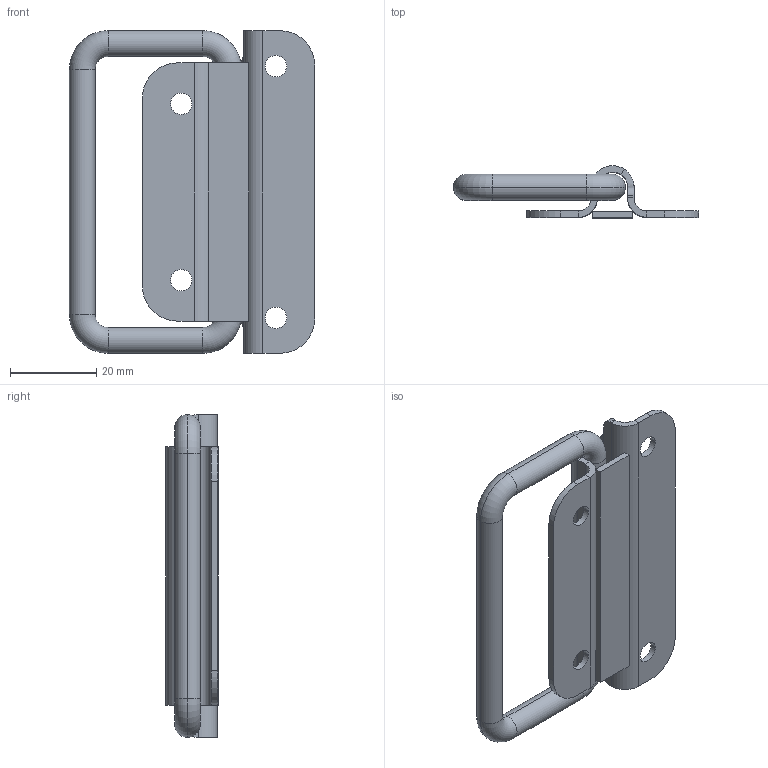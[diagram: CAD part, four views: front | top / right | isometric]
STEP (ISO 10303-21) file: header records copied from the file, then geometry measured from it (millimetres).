
FILE_DESCRIPTION (( 'STEP AP203' ), '1' );
FILE_NAME ('SK4-020.STEP', '2018-11-02T05:13:22', ( 'admin' ), ( 'Microsoft' ), 'SwSTEP 2.0', 'SolidWorks 2015', '' );
FILE_SCHEMA (( 'CONFIG_CONTROL_DESIGN' ));
Length unit declared in the file: millimetre
Products named in the file (4): SK4-020; SK4-020 減諶; SK4-020 蜇璃
Assembly tree (3 placements, depth 2):
  SK4-020
    SK4-020
    SK4-020 減諶
    SK4-020 蜇璃
Bounding box: 57 x 12.1 x 75 mm (x, y, z)
Volume: 11495.9 mm3; surface area: 12405.4 mm2
Topology: 3 solids, 3 shells, 146 faces, 350 edges, 220 vertices
Faces by surface type: plane 83, cylinder 30, bspline 25, torus 8
Entity records: 7340 total; most frequent: CARTESIAN_POINT 3653, ORIENTED_EDGE 700, DIRECTION 618, EDGE_CURVE 350, LINE 228, VECTOR 228, VERTEX_POINT 220, AXIS2_PLACEMENT_3D 195
